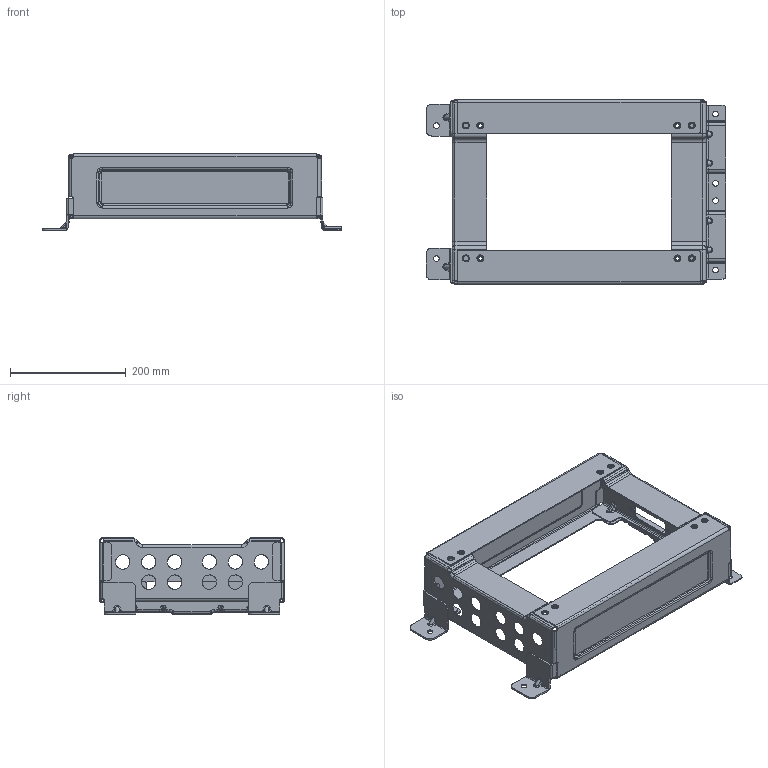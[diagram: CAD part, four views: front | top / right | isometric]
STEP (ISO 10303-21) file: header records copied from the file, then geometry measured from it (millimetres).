
FILE_DESCRIPTION(('CATIA V5 STEP Exchange'),'2;1');
FILE_NAME('E:\吉利商用车G3\3D\新开件\SHT0015277.stp','2022-12-12T02:38:27+00:00',('none'),('none'),'CATIA Version 5 Release 20 GA (IN-10)','CATIA V5 STEP AP214','none');
FILE_SCHEMA(('AUTOMOTIVE_DESIGN { 1 0 10303 214 1 1 1 1 }'));
Products named in the file (1): SHT0015277
Bounding box: 519 x 320 x 132.7 mm (x, y, z)
Volume: 592107.5 mm3; surface area: 644341.3 mm2
Topology: 14 solids, 14 shells, 1429 faces, 3802 edges, 2383 vertices
Faces by surface type: cylinder 627, plane 486, cone 140, bspline 108, torus 24, extrusion 24, sphere 20
Entity records: 58069 total; most frequent: CARTESIAN_POINT 25967, ORIENTED_EDGE 7556, DIRECTION 4891, EDGE_CURVE 3778, VERTEX_POINT 2381, VECTOR 1876, AXIS2_PLACEMENT_3D 1859, LINE 1852
